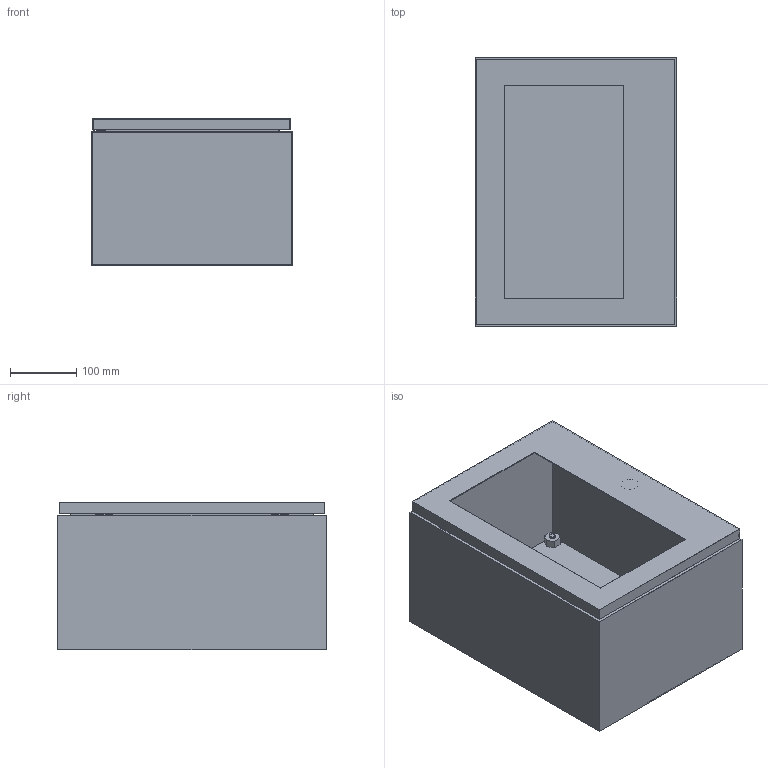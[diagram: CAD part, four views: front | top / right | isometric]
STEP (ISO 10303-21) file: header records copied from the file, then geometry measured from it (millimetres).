
FILE_DESCRIPTION((''),'2;1');
FILE_NAME('ENCL_IND_WINDOW','2007-02-01T',('chrisj'),(''),'PRO/ENGINEER BY PARAMETRIC TECHNOLOGY CORPORATION, 2006080','PRO/ENGINEER BY PARAMETRIC TECHNOLOGY CORPORATION, 2006080','');
FILE_SCHEMA(('AUTOMOTIVE_DESIGN_CC2 { 1 2 10303 214 -1 1 5 2 }'));
Length unit declared in the file: inch
Products named in the file (1): ENCL_IND_WINDOW
Bounding box: 304.8 x 406.4 x 223.52 mm (x, y, z)
Volume: 1032894.4 mm3; surface area: 1281434 mm2
Topology: 1 solids, 1 shells, 139 faces, 362 edges, 236 vertices
Faces by surface type: plane 101, cylinder 38
Entity records: 4304 total; most frequent: CARTESIAN_POINT 737, ORIENTED_EDGE 724, DIRECTION 716, EDGE_CURVE 362, VECTOR 286, LINE 286, VERTEX_POINT 236, AXIS2_PLACEMENT_3D 215
